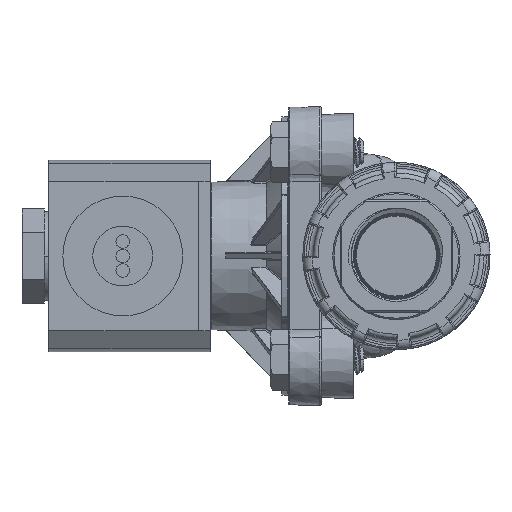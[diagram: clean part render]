
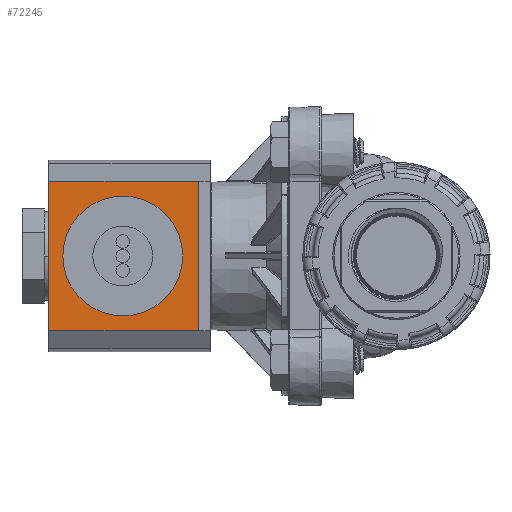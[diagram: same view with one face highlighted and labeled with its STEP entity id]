
A CAD part, left-side view. The second image highlights one B-rep face of the part: STEP entity #72245.
In plain terms, the highlighted planar face has unit normal (-1, 0, 0).
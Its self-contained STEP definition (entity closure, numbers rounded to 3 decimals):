
#3544 = CARTESIAN_POINT ( 'NONE',  ( -24.943, 50.952, 12.7 ) ) ;
#4843 = EDGE_CURVE ( 'NONE', #104377, #38309, #22118, .T. ) ;
#5199 = CIRCLE ( 'NONE', #52931, 12.7 ) ;
#9387 = VECTOR ( 'NONE', #69224, 1000. ) ;
#9821 = CARTESIAN_POINT ( 'NONE',  ( -24.943, 50.952, 0. ) ) ;
#13796 = CARTESIAN_POINT ( 'NONE',  ( -24.943, 66.65, -15.875 ) ) ;
#14330 = DIRECTION ( 'NONE',  ( 0., 1., 0. ) ) ;
#14831 = LINE ( 'NONE', #114625, #9387 ) ;
#15981 = ORIENTED_EDGE ( 'NONE', *, *, #115763, .T. ) ;
#17932 = DIRECTION ( 'NONE',  ( 0., 0., 1. ) ) ;
#22118 = LINE ( 'NONE', #96212, #60315 ) ;
#25248 = DIRECTION ( 'NONE',  ( -1., 0., 0. ) ) ;
#26748 = ORIENTED_EDGE ( 'NONE', *, *, #112027, .F. ) ;
#28920 = DIRECTION ( 'NONE',  ( -1., 0., 0. ) ) ;
#38309 = VERTEX_POINT ( 'NONE', #103698 ) ;
#39047 = VERTEX_POINT ( 'NONE', #114741 ) ;
#42787 = CARTESIAN_POINT ( 'NONE',  ( -24.943, 34.9, -15.875 ) ) ;
#44888 = FACE_OUTER_BOUND ( 'NONE', #78496, .T. ) ;
#47233 = DIRECTION ( 'NONE',  ( 0., 0., 1. ) ) ;
#52931 = AXIS2_PLACEMENT_3D ( 'NONE', #9821, #28920, #56422 ) ;
#53133 = ORIENTED_EDGE ( 'NONE', *, *, #84446, .F. ) ;
#55054 = CARTESIAN_POINT ( 'NONE',  ( -24.943, 34.9, -15.875 ) ) ;
#56422 = DIRECTION ( 'NONE',  ( 0., 0., 1. ) ) ;
#60315 = VECTOR ( 'NONE', #14330, 1000. ) ;
#61073 = VECTOR ( 'NONE', #71155, 1000. ) ;
#61657 = CIRCLE ( 'NONE', #96023, 12.7 ) ;
#62362 = EDGE_CURVE ( 'NONE', #39047, #38309, #95678, .T. ) ;
#63076 = CARTESIAN_POINT ( 'NONE',  ( -24.943, 34.9, 15.875 ) ) ;
#63334 = LINE ( 'NONE', #108186, #61073 ) ;
#66271 = VERTEX_POINT ( 'NONE', #3544 ) ;
#69190 = VERTEX_POINT ( 'NONE', #42787 ) ;
#69224 = DIRECTION ( 'NONE',  ( 0., 0., 1. ) ) ;
#69982 = EDGE_LOOP ( 'NONE', ( #26748, #53133 ) ) ;
#71155 = DIRECTION ( 'NONE',  ( 0., 1., 0. ) ) ;
#71292 = DIRECTION ( 'NONE',  ( 0., 0., 1. ) ) ;
#71454 = ORIENTED_EDGE ( 'NONE', *, *, #75243, .F. ) ;
#72245 = ADVANCED_FACE ( 'Defeatured_0_675', ( #74734, #44888 ), #81372, .T. ) ;
#74734 = FACE_BOUND ( 'NONE', #69982, .T. ) ;
#75243 = EDGE_CURVE ( 'NONE', #69190, #39047, #63334, .T. ) ;
#78461 = CARTESIAN_POINT ( 'NONE',  ( -24.943, 50.952, 0. ) ) ;
#78496 = EDGE_LOOP ( 'NONE', ( #97314, #71454, #15981, #108778 ) ) ;
#81372 = PLANE ( 'NONE',  #99631 ) ;
#82457 = VECTOR ( 'NONE', #17932, 1000. ) ;
#84446 = EDGE_CURVE ( 'NONE', #66271, #85582, #61657, .T. ) ;
#85582 = VERTEX_POINT ( 'NONE', #98656 ) ;
#95678 = LINE ( 'NONE', #13796, #82457 ) ;
#96023 = AXIS2_PLACEMENT_3D ( 'NONE', #78461, #25248, #71292 ) ;
#96212 = CARTESIAN_POINT ( 'NONE',  ( -24.943, 34.9, 15.875 ) ) ;
#97314 = ORIENTED_EDGE ( 'NONE', *, *, #62362, .F. ) ;
#98656 = CARTESIAN_POINT ( 'NONE',  ( -24.943, 50.952, -12.7 ) ) ;
#99631 = AXIS2_PLACEMENT_3D ( 'NONE', #55054, #111195, #47233 ) ;
#103698 = CARTESIAN_POINT ( 'NONE',  ( -24.943, 66.65, 15.875 ) ) ;
#104377 = VERTEX_POINT ( 'NONE', #63076 ) ;
#108186 = CARTESIAN_POINT ( 'NONE',  ( -24.943, 34.9, -15.875 ) ) ;
#108778 = ORIENTED_EDGE ( 'NONE', *, *, #4843, .T. ) ;
#111195 = DIRECTION ( 'NONE',  ( -1., 0., 0. ) ) ;
#112027 = EDGE_CURVE ( 'NONE', #85582, #66271, #5199, .T. ) ;
#114625 = CARTESIAN_POINT ( 'NONE',  ( -24.943, 34.9, -15.875 ) ) ;
#114741 = CARTESIAN_POINT ( 'NONE',  ( -24.943, 66.65, -15.875 ) ) ;
#115763 = EDGE_CURVE ( 'NONE', #69190, #104377, #14831, .T. ) ;
